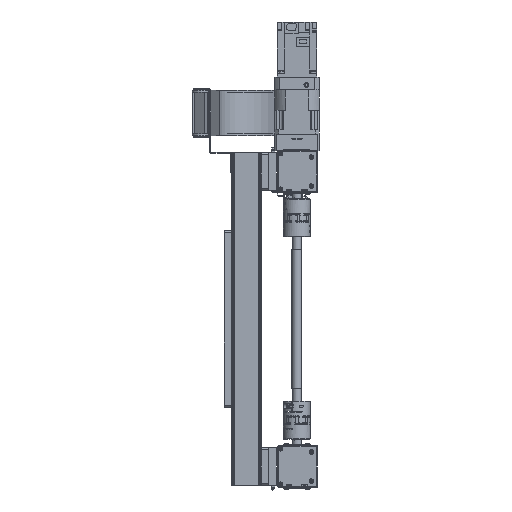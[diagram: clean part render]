
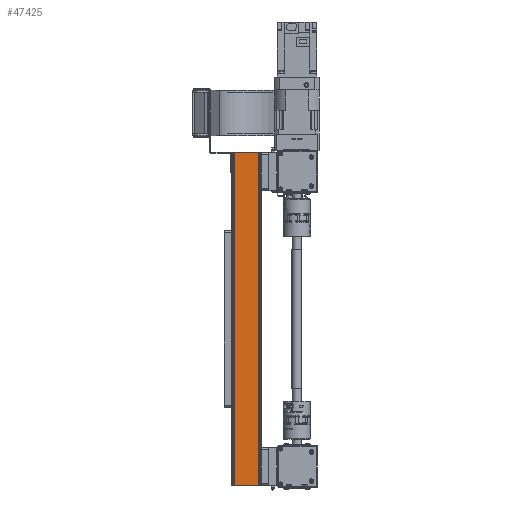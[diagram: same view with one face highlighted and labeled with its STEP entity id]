
A CAD part, left-side view. The second image highlights one B-rep face of the part: STEP entity #47425.
In plain terms, the highlighted planar face has unit normal (-1, 0, 0) as drawn and (1, 0, 0) by its records, which use the part's own axes.
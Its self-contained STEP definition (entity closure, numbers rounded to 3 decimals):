
#5573=FACE_OUTER_BOUND('',#8294,.T.);
#8294=EDGE_LOOP('',(#37181,#37182,#37183,#37184));
#11677=LINE('',#77053,#16151);
#11682=LINE('',#77070,#16156);
#11683=LINE('',#77073,#16157);
#11684=LINE('',#77074,#16158);
#16151=VECTOR('',#61400,10.);
#16156=VECTOR('',#61419,10.);
#16157=VECTOR('',#61422,10.);
#16158=VECTOR('',#61423,10.);
#20982=VERTEX_POINT('',#77050);
#20983=VERTEX_POINT('',#77052);
#20988=VERTEX_POINT('',#77068);
#20989=VERTEX_POINT('',#77072);
#26827=EDGE_CURVE('',#20983,#20982,#11677,.T.);
#26836=EDGE_CURVE('',#20983,#20988,#11682,.T.);
#26837=EDGE_CURVE('',#20989,#20982,#11683,.T.);
#26838=EDGE_CURVE('',#20988,#20989,#11684,.T.);
#37181=ORIENTED_EDGE('',*,*,#26836,.F.);
#37182=ORIENTED_EDGE('',*,*,#26827,.T.);
#37183=ORIENTED_EDGE('',*,*,#26837,.F.);
#37184=ORIENTED_EDGE('',*,*,#26838,.F.);
#45256=PLANE('',#51978);
#47425=ADVANCED_FACE('',(#5573),#45256,.T.);
#51978=AXIS2_PLACEMENT_3D('',#77071,#61420,#61421);
#61400=DIRECTION('',(0.,1.,0.));
#61419=DIRECTION('',(0.,0.,1.));
#61420=DIRECTION('center_axis',(1.,0.,0.));
#61421=DIRECTION('ref_axis',(0.,1.,0.));
#61422=DIRECTION('',(0.,0.,-1.));
#61423=DIRECTION('',(0.,1.,0.));
#77050=CARTESIAN_POINT('',(30.,27.,-578.));
#77052=CARTESIAN_POINT('',(30.,-27.,-578.));
#77053=CARTESIAN_POINT('',(30.,-30.,-578.));
#77068=CARTESIAN_POINT('',(30.,-27.,100.));
#77070=CARTESIAN_POINT('',(30.,-27.,0.));
#77071=CARTESIAN_POINT('Origin',(30.,-30.,0.));
#77072=CARTESIAN_POINT('',(30.,27.,100.));
#77073=CARTESIAN_POINT('',(30.,27.,0.));
#77074=CARTESIAN_POINT('',(30.,-30.,100.));
